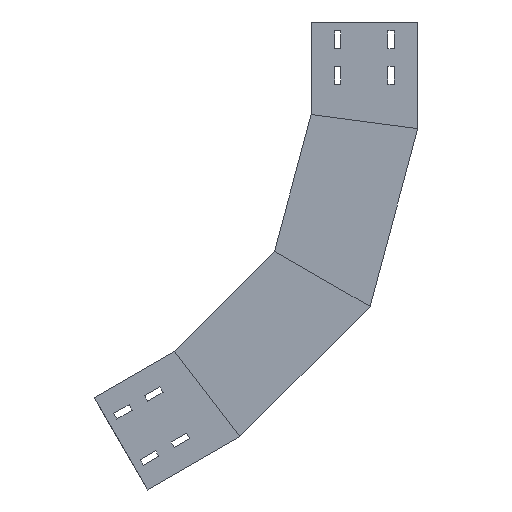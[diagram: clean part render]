
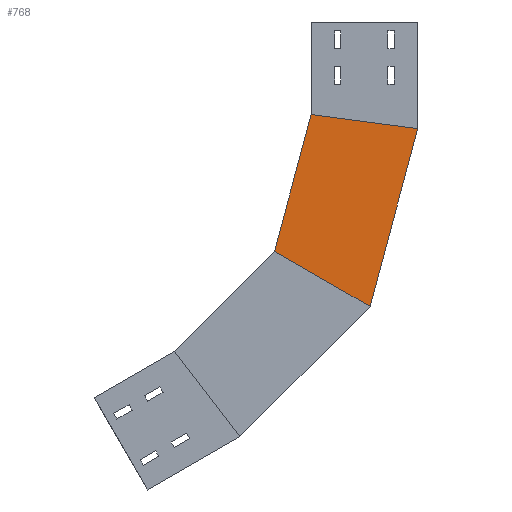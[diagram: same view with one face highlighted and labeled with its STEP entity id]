
A CAD part, left-side view. The second image highlights one B-rep face of the part: STEP entity #768.
In plain terms, the highlighted planar face has unit normal (-1, 0, 0) as drawn and (1, 0, 0) by its records, which use the part's own axes.
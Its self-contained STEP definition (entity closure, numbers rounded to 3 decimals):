
#101 = EDGE_CURVE ( 'NONE', #242, #1539, #264, .T. ) ;
#127 = PLANE ( 'NONE',  #1388 ) ;
#132 = EDGE_CURVE ( 'NONE', #653, #1539, #624, .T. ) ;
#242 = VERTEX_POINT ( 'NONE', #679 ) ;
#264 = LINE ( 'NONE', #436, #520 ) ;
#320 = EDGE_CURVE ( 'NONE', #392, #653, #1193, .T. ) ;
#392 = VERTEX_POINT ( 'NONE', #1383 ) ;
#407 = ORIENTED_EDGE ( 'NONE', *, *, #132, .F. ) ;
#436 = CARTESIAN_POINT ( 'NONE',  ( 0., 67.034, -400.175 ) ) ;
#520 = VECTOR ( 'NONE', #1106, 1000. ) ;
#545 = CARTESIAN_POINT ( 'NONE',  ( 0., 125.087, -366.658 ) ) ;
#624 = LINE ( 'NONE', #1307, #846 ) ;
#653 = VERTEX_POINT ( 'NONE', #903 ) ;
#679 = CARTESIAN_POINT ( 'NONE',  ( 0., 67.034, -400.175 ) ) ;
#746 = LINE ( 'NONE', #545, #747 ) ;
#747 = VECTOR ( 'NONE', #1923, 1000. ) ;
#768 = ADVANCED_FACE ( 'NONE', ( #2209 ), #127, .F. ) ;
#824 = ORIENTED_EDGE ( 'NONE', *, *, #101, .T. ) ;
#841 = DIRECTION ( 'NONE',  ( -1., 0., 0. ) ) ;
#846 = VECTOR ( 'NONE', #1998, 1000. ) ;
#853 = DIRECTION ( 'NONE',  ( 0., 0.707, -0.707 ) ) ;
#903 = CARTESIAN_POINT ( 'NONE',  ( 0., 342.277, -463.286 ) ) ;
#987 = DIRECTION ( 'NONE',  ( 0., 0., 1. ) ) ;
#998 = ORIENTED_EDGE ( 'NONE', *, *, #1334, .T. ) ;
#1106 = DIRECTION ( 'NONE',  ( 0., 0.707, -0.707 ) ) ;
#1193 = LINE ( 'NONE', #1394, #1354 ) ;
#1225 = EDGE_LOOP ( 'NONE', ( #1550, #998, #824, #407 ) ) ;
#1307 = CARTESIAN_POINT ( 'NONE',  ( 0., 270.755, -556.495 ) ) ;
#1334 = EDGE_CURVE ( 'NONE', #392, #242, #746, .T. ) ;
#1354 = VECTOR ( 'NONE', #853, 1000. ) ;
#1383 = CARTESIAN_POINT ( 'NONE',  ( 0., 201.52, -322.529 ) ) ;
#1388 = AXIS2_PLACEMENT_3D ( 'NONE', #2197, #841, #987 ) ;
#1394 = CARTESIAN_POINT ( 'NONE',  ( 0., 173.1, -294.109 ) ) ;
#1539 = VERTEX_POINT ( 'NONE', #2021 ) ;
#1550 = ORIENTED_EDGE ( 'NONE', *, *, #320, .F. ) ;
#1923 = DIRECTION ( 'NONE',  ( 0., -0.866, -0.5 ) ) ;
#1998 = DIRECTION ( 'NONE',  ( 0., -0.609, -0.793 ) ) ;
#2021 = CARTESIAN_POINT ( 'NONE',  ( 0., 250.175, -583.315 ) ) ;
#2197 = CARTESIAN_POINT ( 'NONE',  ( 0., 67.034, -400.175 ) ) ;
#2209 = FACE_OUTER_BOUND ( 'NONE', #1225, .T. ) ;
